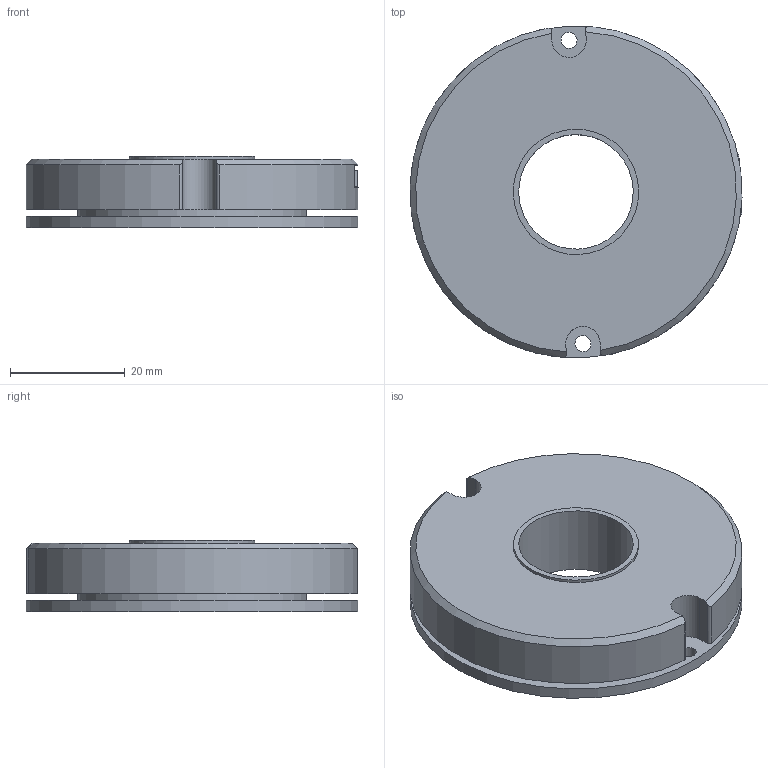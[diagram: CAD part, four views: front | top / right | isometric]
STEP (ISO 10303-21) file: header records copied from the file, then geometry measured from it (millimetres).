
FILE_DESCRIPTION(('STEP AP214'), '1');
FILE_NAME('蟲鰍-觴-58_騷婽.401265.001', '2024-11-21T08:08:45', (''), (''), 'C3D Converter', 'C3D Toolkit', '');
FILE_SCHEMA(('AUTOMOTIVE_DESIGN { 1 0 10303 214 3 1 1}'));
Length unit declared in the file: millimetre
Products named in the file (6): ДМШК.401265.001; 1.25T-6P-WT-1; 1.25T-6P-WT-2
Assembly tree (5 placements, depth 3):
  ДМШК.401265.001
    (unnamed)
    (unnamed)
    (unnamed)
      1.25T-6P-WT-1
      1.25T-6P-WT-2
Bounding box: 57.96 x 57.94 x 12.5 mm (x, y, z)
Volume: 25333.7 mm3; surface area: 11483.3 mm2
Topology: 7 solids, 9 shells, 340 faces, 887 edges, 582 vertices
Faces by surface type: plane 315, cylinder 23, cone 2
Full cylindrical faces by diameter (mm): 2.8 x2, 20 x1, 21.9 x1, 25 x1, 26 x1, 40 x1, 40.6 x1, 58 x1
Entity records: 13415 total; most frequent: CARTESIAN_POINT 2008, ORIENTED_EDGE 1756, DIRECTION 1610, EDGE_CURVE 878, LINE 822, VECTOR 822, VERTEX_POINT 582, AXIS2_PLACEMENT_3D 394
